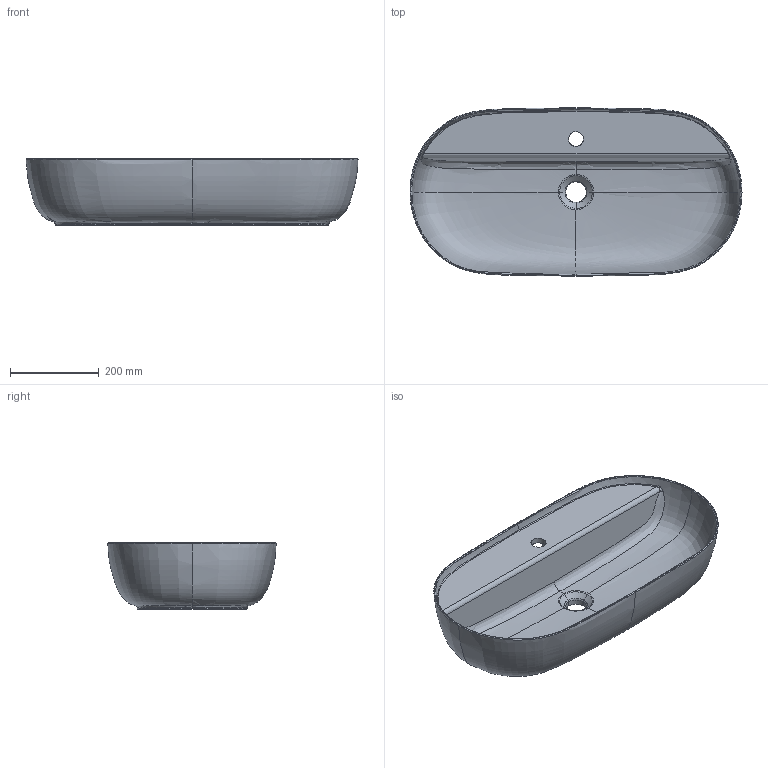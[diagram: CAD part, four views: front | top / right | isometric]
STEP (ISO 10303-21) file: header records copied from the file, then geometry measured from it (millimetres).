
FILE_DESCRIPTION(/* description */ (''),/* implementation_level */ '2;1');
FILE_NAME(/* name */ 'LAVABO_HAPPY_HOUR_21-00_MF_PROTAP_01_20210519.stp',/* time_stamp */ '2021-05-19T14:39:24+02:00',/* author */ (''),/* organization */ (''),/* preprocessor_version */ 'ST-DEVELOPER v16.7',/* originating_system */ 'SIEMENS PLM Software NX 12.0',/* authorisation */ '');
FILE_SCHEMA (('AUTOMOTIVE_DESIGN { 1 0 10303 214 3 1 1 1 }'));
Products named in the file (1): Cava20841A6A69ik
Bounding box: 750 x 380.16 x 150 mm (x, y, z)
Volume: 10580562.9 mm3; surface area: 878353.7 mm2
Topology: 1 solids, 1 shells, 267 faces, 633 edges, 364 vertices
Faces by surface type: bspline 227, plane 20, cylinder 16, torus 4
Full cylindrical faces by diameter (mm): 8 x1, 34 x1
Entity records: 42201 total; most frequent: CARTESIAN_POINT 37934, ORIENTED_EDGE 1226, EDGE_CURVE 613, B_SPLINE_CURVE_WITH_KNOTS 441, VERTEX_POINT 360, DIRECTION 324, EDGE_LOOP 283, ADVANCED_FACE 267
